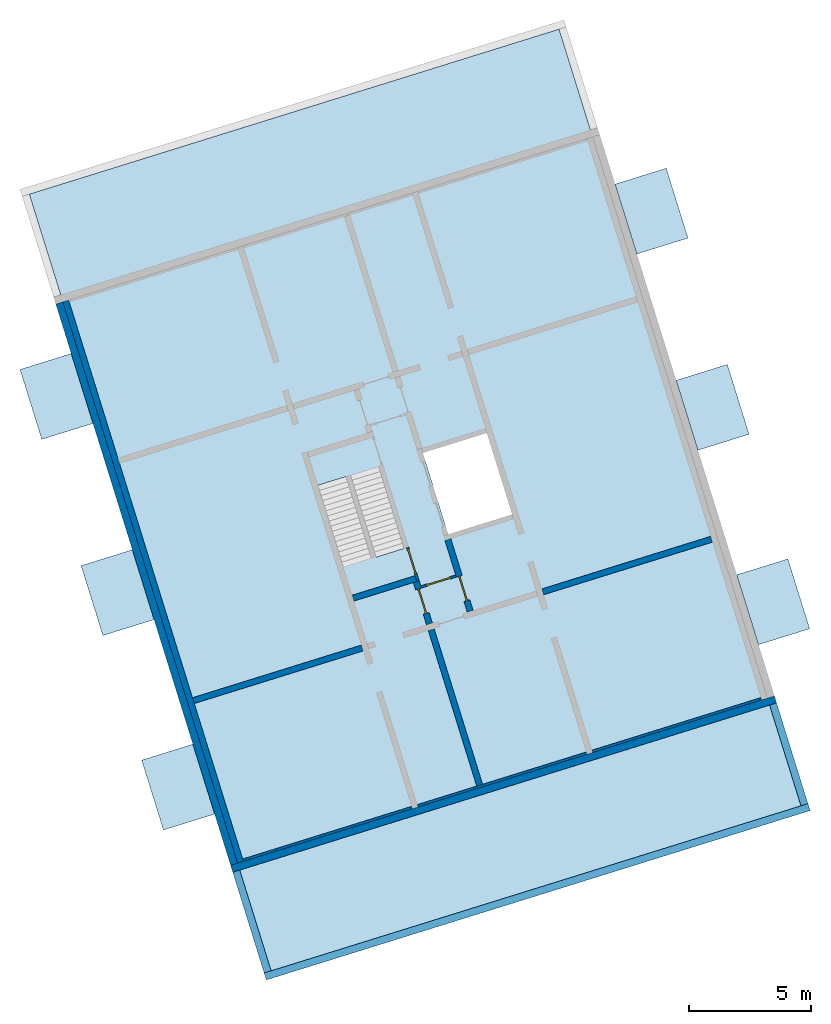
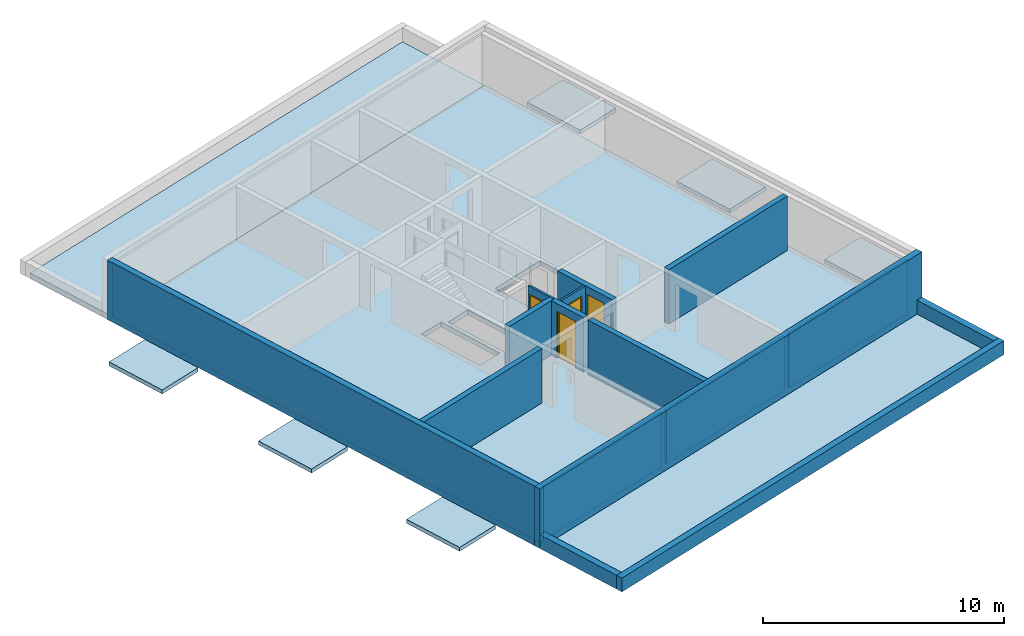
# One storey, part 1 of 4: 17 walls, 9 slabs, 4 doors, 6 openings.
"""IFC4 building model written with IfcOpenShell, lengths in metres."""

from ifc_helpers import new_model, entity, si_unit, converted_unit, direction, frame, origin, place, context, subcontext, project, spatial, indexed_curve, outline, extrude, polygons, source, transform, mapped, material, constituent, constituent_set, type_object, type_shapes, element, fill, save


model = new_model("IFC4")

# Units and contexts
model_context = context("Model", 3, precision=1e-05, world=origin(), true_north=direction((6.12323399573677e-17, 1.0)))
body_context = subcontext(model_context, "Body", "Model", "MODEL_VIEW")
ifc_project = project(units=[si_unit("LENGTHUNIT", "METRE"), si_unit("AREAUNIT", "SQUARE_METRE"), si_unit("VOLUMEUNIT", "CUBIC_METRE"), converted_unit("PLANEANGLEUNIT", "DEGREE", entity("IfcPlaneAngleMeasure", 0.0174532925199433), si_unit("PLANEANGLEUNIT", "RADIAN"), dimensions=[0, 0, 0, 0, 0, 0, 0])], contexts=[model_context])

# Site, building, storey
site_placement = place(None, frame((13.1347999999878, 11.9886000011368, 0.0), z_axis=(0.0, 0.0, 1.0), x_axis=(0.954770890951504, 0.297342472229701, 0.0)))
site = spatial("IfcSite", under=ifc_project, at=site_placement, Name="Schiehaven", CompositionType="ELEMENT")
building_placement = place(site_placement, origin())
building = spatial("IfcBuilding", under=site, at=building_placement, Name="VORM huis", CompositionType="ELEMENT")
storey_placement = place(building_placement, frame((0.0, 0.0, 6.9)))
storey = spatial("IfcBuildingStorey", under=building, at=storey_placement, Name="02 tweede verdieping", CompositionType="ELEMENT", Elevation=6.9)

# Slab, openings
ifc_material_1 = material(Name="beton_gewapend_ihw", Category="Miscellaneous")
slab_type_1 = type_object("IfcSlabType", Name="Floor:28_FL_skelet_vloer 250mm", PredefinedType="FLOOR", material=ifc_material_1)
slab_1_placement = place(storey_placement, origin())
slab_1 = element("IfcSlab", 1, at=slab_1_placement, inside=storey, type_object=slab_type_1, material=ifc_material_1, Name="Constructieve vloer", ObjectType="Vloer", PredefinedType="FLOOR", context=body_context, shape_type="SweptSolid", body=[
    extrude(outline(indexed_curve([(-12.0499999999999, -11.375), (12.0499999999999, -11.375), (12.0499999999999, 11.375), (-12.0499999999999, 11.375), (-12.0499999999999, -11.375)], self_intersect=False), holes=[indexed_curve([(1.75000000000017, 3.62500000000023), (1.75000000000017, 0.875000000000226), (-1.74999999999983, 0.875000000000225), (-1.74999999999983, 3.62500000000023), (1.75000000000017, 3.62500000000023)], self_intersect=False), indexed_curve([(-1.53999999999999, -2.22499999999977), (-1.53999999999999, -1.02499999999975), (1.76000000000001, -1.02499999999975), (1.76000000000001, -2.22499999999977), (-1.53999999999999, -2.22499999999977)], self_intersect=False), indexed_curve([(1.54000000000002, -3.62499999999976), (-1.75999999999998, -3.62499999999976), (-1.75999999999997, -2.42499999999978), (1.54000000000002, -2.42499999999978), (1.54000000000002, -3.62499999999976)], self_intersect=False)]), frame((68.7500000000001, 17.0499999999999, -0.249999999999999), z_axis=(0.0, 0.0, 1.0), x_axis=(0.0, -1.0, 0.0)), (0.0, 0.0, 1.0), 0.249999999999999),
])
opening_1_placement = place(slab_1_placement, origin())
element("IfcOpeningElement", 2, at=opening_1_placement, cuts=slab_1, Name="Constructieve vloer", PredefinedType="OPENING", context=body_context, shape_type="SweptSolid", body=[
    extrude(outline(indexed_curve([(-1.75, -1.37499999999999), (1.75, -1.37499999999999), (1.75, 1.37500000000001), (-1.75, 1.37500000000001), (-1.75, -1.37499999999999)], self_intersect=False)), frame((71.0, 17.0499999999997, -0.249999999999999), z_axis=(0.0, 0.0, 1.0), x_axis=(0.0, 1.0, 0.0)), (0.0, 0.0, 1.0), 0.249999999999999),
])
opening_2_placement = place(slab_1_placement, origin())
element("IfcOpeningElement", 3, at=opening_2_placement, cuts=slab_1, Name="Constructieve vloer", PredefinedType="OPENING", context=body_context, shape_type="SweptSolid", body=[
    extrude(outline(indexed_curve([(-1.65, -0.600000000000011), (1.65000000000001, -0.600000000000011), (1.65000000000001, 0.600000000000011), (-1.65, 0.600000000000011), (-1.65, -0.600000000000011)], self_intersect=False)), frame((67.1250000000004, 16.9399999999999, -0.249999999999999), z_axis=(0.0, 0.0, 1.0), x_axis=(0.0, -1.0, 0.0)), (0.0, 0.0, 1.0), 0.249999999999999),
])

# Slabs
ifc_material_2 = material(Name="beton_gewapend_prefab-element", Category="Miscellaneous")
slab_type_2 = type_object("IfcSlabType", Name="Floor:23_FL_skelet_balkon 200mm", PredefinedType="FLOOR", material=ifc_material_2)
slab_2_placement = place(storey_placement, origin())
element("IfcSlab", 4, at=slab_2_placement, inside=storey, type_object=slab_type_2, material=ifc_material_2, Name="Balkonvloer", ObjectType="Vloer", PredefinedType="FLOOR", context=body_context, shape_type="SweptSolid", body=[
    extrude(outline(indexed_curve([(-1.49999999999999, -1.1), (1.5, -1.1), (1.49999999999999, 1.1), (-1.5, 1.1), (-1.49999999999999, -1.1)], self_intersect=False)), frame((55.9750000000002, 25.475, 0.0), z_axis=(0.0, 0.0, -1.0), x_axis=(0.0, 1.0, 0.0)), (0.0, 0.0, 1.0), 0.2),
])
slab_3_placement = place(storey_placement, origin())
element("IfcSlab", 5, at=slab_3_placement, inside=storey, type_object=slab_type_2, material=ifc_material_2, Name="Balkonvloer", ObjectType="Vloer", PredefinedType="FLOOR", context=body_context, shape_type="SweptSolid", body=[
    extrude(outline(indexed_curve([(-1.50000000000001, -1.1), (1.50000000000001, -1.1), (1.50000000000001, 1.10000000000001), (-1.50000000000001, 1.1), (-1.50000000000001, -1.1)], self_intersect=False)), frame((55.9750000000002, 8.70000000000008, 0.0), z_axis=(0.0, 0.0, -1.0), x_axis=(0.0, 1.0, 0.0)), (0.0, 0.0, 1.0), 0.2),
])
slab_4_placement = place(storey_placement, origin())
element("IfcSlab", 6, at=slab_4_placement, inside=storey, type_object=slab_type_2, material=ifc_material_2, Name="Balkonvloer", ObjectType="Vloer", PredefinedType="FLOOR", context=body_context, shape_type="SweptSolid", body=[
    extrude(outline(indexed_curve([(-1.50000000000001, -1.1), (1.50000000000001, -1.1), (1.50000000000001, 1.1), (-1.5, 1.10000000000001), (-1.50000000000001, -1.1)], self_intersect=False)), frame((55.9750000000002, 17.0499999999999, 0.0), z_axis=(0.0, 0.0, -1.0), x_axis=(0.0, 1.0, 0.0)), (0.0, 0.0, 1.0), 0.2),
])
slab_5_placement = place(storey_placement, origin())
element("IfcSlab", 7, at=slab_5_placement, inside=storey, type_object=slab_type_2, material=ifc_material_2, Name="Balkonvloer", ObjectType="Vloer", PredefinedType="FLOOR", context=body_context, shape_type="SweptSolid", body=[
    extrude(outline(indexed_curve([(-1.50000000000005, -1.10000000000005), (1.50000000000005, -1.10000000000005), (1.50000000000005, 1.10000000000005), (-1.50000000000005, 1.10000000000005), (-1.50000000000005, -1.10000000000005)], self_intersect=False)), frame((81.5250000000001, 25.475, 0.0), z_axis=(0.0, 0.0, -1.0), x_axis=(0.0, 1.0, 0.0)), (0.0, 0.0, 1.0), 0.2),
])
slab_6_placement = place(storey_placement, origin())
element("IfcSlab", 8, at=slab_6_placement, inside=storey, type_object=slab_type_2, material=ifc_material_2, Name="Balkonvloer", ObjectType="Vloer", PredefinedType="FLOOR", context=body_context, shape_type="SweptSolid", body=[
    extrude(outline(indexed_curve([(-1.49999999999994, -1.09999999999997), (1.49999999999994, -1.09999999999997), (1.49999999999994, 1.09999999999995), (-1.49999999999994, 1.09999999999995), (-1.49999999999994, -1.09999999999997)], self_intersect=False)), frame((81.5250000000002, 8.70000000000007, 0.0), z_axis=(0.0, 0.0, -1.0), x_axis=(0.0, 1.0, 0.0)), (0.0, 0.0, 1.0), 0.2),
])
slab_7_placement = place(storey_placement, origin())
element("IfcSlab", 9, at=slab_7_placement, inside=storey, type_object=slab_type_2, material=ifc_material_2, Name="Balkonvloer", ObjectType="Vloer", PredefinedType="FLOOR", context=body_context, shape_type="SweptSolid", body=[
    extrude(outline(indexed_curve([(-1.49999999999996, -1.09999999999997), (1.49999999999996, -1.09999999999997), (1.49999999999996, 1.09999999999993), (-1.49999999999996, 1.09999999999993), (-1.49999999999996, -1.09999999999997)], self_intersect=False)), frame((81.5250000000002, 17.05, 0.0), z_axis=(0.0, 0.0, -1.0), x_axis=(0.0, 1.0, 0.0)), (0.0, 0.0, 1.0), 0.2),
])
slab_type_3 = type_object("IfcSlabType", Name="Floor:28_FL_skelet_dakterrasvloer 250mm", PredefinedType="ROOF", material=ifc_material_1)
slab_8_placement = place(storey_placement, origin())
element("IfcSlab", 10, at=slab_8_placement, inside=storey, type_object=slab_type_3, material=ifc_material_1, Name="Begaanbare dakvloer", ObjectType="Vloer", PredefinedType="ROOF", context=body_context, shape_type="SweptSolid", body=[
    extrude(outline(indexed_curve([(-2.31249999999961, -11.375), (2.31250000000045, -11.375), (2.31249999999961, 11.375), (-2.31250000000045, 11.375), (-2.31249999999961, -11.375)], self_intersect=False)), frame((68.7500000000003, 2.68749999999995, 0.0), z_axis=(0.0, 0.0, -1.0), x_axis=(0.0, 1.0, 0.0)), (0.0, 0.0, 1.0), 0.249999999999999),
])
slab_9_placement = place(storey_placement, origin())
element("IfcSlab", 11, at=slab_9_placement, inside=storey, type_object=slab_type_3, material=ifc_material_1, Name="Begaanbare dakvloer", ObjectType="Vloer", PredefinedType="ROOF", context=body_context, shape_type="SweptSolid", body=[
    extrude(outline(indexed_curve([(-2.31249999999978, -11.3750000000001), (2.31250000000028, -11.3750000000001), (2.31249999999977, 11.3750000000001), (-2.31250000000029, 11.3750000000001), (-2.31249999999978, -11.3750000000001)], self_intersect=False)), frame((68.7500000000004, 31.4124999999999, 0.0), z_axis=(0.0, 0.0, -1.0), x_axis=(0.0, 1.0, 0.0)), (0.0, 0.0, 1.0), 0.249999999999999),
])

# Walls
wall_type_1 = type_object("IfcWallType", Name="Basic Wall:28_WA_skelet_wand 250mm_gen", PredefinedType="STANDARD")
wall_1_placement = place(storey_placement, frame((57.5000000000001, 5.0, 0.0), z_axis=(0.0, 0.0, 1.0), x_axis=(0.0, 1.0, 0.0)))
element("IfcWall", 12, at=wall_1_placement, inside=storey, type_object=wall_type_1, material=ifc_material_1, Name="Constructieve wand", ObjectType="Wand", PredefinedType="NOTDEFINED", context=body_context, shape_type="SweptSolid", body=[
    extrude(outline(indexed_curve([(24.1, 0.124999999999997), (1.84706995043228e-16, 0.124999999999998), (-1.84706995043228e-16, -0.124999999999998), (24.1, -0.124999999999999), (24.1, 0.124999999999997)], self_intersect=False)), origin(), (0.0, 0.0, 1.0), 2.75),
])
ifc_material_3 = material(Name="ntb_ntb_ntb", Category="Miscellaneous")
wall_type_2 = type_object("IfcWallType", Name="Basic Wall:21_WA_gevel_binnenspouwwand 100mm_gen", PredefinedType="STANDARD")
wall_2_placement = place(storey_placement, frame((79.8750000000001, 5.04999999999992, 0.0), z_axis=(0.0, 0.0, 1.0), x_axis=(-1.0, 0.0, 0.0)))
element("IfcWall", 13, at=wall_2_placement, inside=storey, type_object=wall_type_2, material=ifc_material_3, Name="Binnenspouwblad", ObjectType="Wand", PredefinedType="NOTDEFINED", context=body_context, shape_type="SweptSolid", body=[
    extrude(outline(indexed_curve([(7.24999999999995, 0.0500000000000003), (-5.72474684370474e-18, 0.0500000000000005), (5.72474684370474e-18, -0.0500000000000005), (7.24999999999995, -0.0500000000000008), (7.24999999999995, 0.0500000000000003)], self_intersect=False)), origin(), (0.0, 0.0, 1.0), 2.75),
])
wall_3_placement = place(storey_placement, frame((65.1250000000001, 5.0499999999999, 0.0)))
element("IfcWall", 14, at=wall_3_placement, inside=storey, type_object=wall_type_2, material=ifc_material_3, Name="Binnenspouwblad", ObjectType="Wand", PredefinedType="NOTDEFINED", context=body_context, shape_type="SweptSolid", body=[
    extrude(outline(indexed_curve([(7.24999999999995, 0.0500000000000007), (1.48468503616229e-16, 0.0500000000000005), (-1.48468503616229e-16, -0.0500000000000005), (7.24999999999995, -0.0500000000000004), (7.24999999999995, 0.0500000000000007)], self_intersect=False)), origin(), (0.0, 0.0, 1.0), 2.75),
])
wall_4_placement = place(storey_placement, frame((64.875, 5.0499999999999, 0.0), z_axis=(0.0, 0.0, 1.0), x_axis=(-1.0, 0.0, 0.0)))
element("IfcWall", 15, at=wall_4_placement, inside=storey, type_object=wall_type_2, material=ifc_material_3, Name="Binnenspouwblad", ObjectType="Wand", PredefinedType="NOTDEFINED", context=body_context, shape_type="SweptSolid", body=[
    extrude(outline(indexed_curve([(7.24999999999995, 0.0500000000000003), (-5.72474684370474e-18, 0.0500000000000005), (5.72474684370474e-18, -0.0500000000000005), (7.24999999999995, -0.0500000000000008), (7.24999999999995, 0.0500000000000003)], self_intersect=False)), origin(), (0.0, 0.0, 1.0), 2.75),
])
wall_type_3 = type_object("IfcWallType", Name="Basic Wall: 300mm_gen", PredefinedType="STANDARD")
wall_5_placement = place(storey_placement, frame((57.075, 4.84999999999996, 0.0)))
element("IfcWall", 16, at=wall_5_placement, inside=storey, type_object=wall_type_3, material=ifc_material_3, Name="Gevelwand", ObjectType="Wand", PredefinedType="NOTDEFINED", context=body_context, shape_type="SweptSolid", body=[
    extrude(outline(indexed_curve([(23.35, 0.150000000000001), (-2.29983128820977e-16, 0.150000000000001), (2.29983128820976e-16, -0.15), (23.35, -0.15), (23.35, 0.150000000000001)], self_intersect=False)), origin(), (0.0, 0.0, 1.0), 3.0),
])
wall_6_placement = place(storey_placement, frame((57.2250000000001, 29.0999999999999, 0.0), z_axis=(0.0, 0.0, 1.0), x_axis=(0.0, -1.0, 0.0)))
element("IfcWall", 17, at=wall_6_placement, inside=storey, type_object=wall_type_3, material=ifc_material_3, Name="Gevelwand", ObjectType="Wand", PredefinedType="NOTDEFINED", context=body_context, shape_type="SweptSolid", body=[
    extrude(outline(indexed_curve([(24.1, 0.149999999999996), (-2.43297068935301e-16, 0.150000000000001), (2.43297068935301e-16, -0.150000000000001), (24.1, -0.150000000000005), (24.1, 0.149999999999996)], self_intersect=False)), origin(), (0.0, 0.0, 1.0), 3.0),
])
wall_7_placement = place(storey_placement, frame((57.2250000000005, 4.7000000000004, 0.0), z_axis=(0.0, 0.0, 1.0), x_axis=(0.0, -1.0, 0.0)))
element("IfcWall", 18, at=wall_7_placement, inside=storey, type_object=wall_type_3, material=ifc_material_3, Name="Gevelwand", ObjectType="Wand", PredefinedType="NOTDEFINED", context=body_context, shape_type="SweptSolid", body=[
    extrude(outline(indexed_curve([(4.32500000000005, 0.15), (-1.7016100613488e-16, 0.150000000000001), (1.7016100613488e-16, -0.150000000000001), (4.32500000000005, -0.150000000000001), (4.32500000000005, 0.15)], self_intersect=False)), origin(), (0.0, 0.0, 1.0), 0.700000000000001),
])
wall_8_placement = place(storey_placement, frame((57.0750000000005, 0.225000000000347, 0.0)))
element("IfcWall", 19, at=wall_8_placement, inside=storey, type_object=wall_type_3, material=ifc_material_3, Name="Gevelwand", ObjectType="Wand", PredefinedType="NOTDEFINED", context=body_context, shape_type="SweptSolid", body=[
    extrude(outline(indexed_curve([(23.3499999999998, 0.15), (6.63985353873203e-16, 0.15), (-6.63985353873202e-16, -0.15), (23.3499999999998, -0.15), (23.3499999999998, 0.15)], self_intersect=False)), origin(), (0.0, 0.0, 1.0), 0.700000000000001),
])
wall_9_placement = place(storey_placement, frame((80.2750000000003, 0.375000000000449, 0.0), z_axis=(0.0, 0.0, 1.0), x_axis=(0.0, 1.0, 0.0)))
element("IfcWall", 20, at=wall_9_placement, inside=storey, type_object=wall_type_3, material=ifc_material_3, Name="Gevelwand", ObjectType="Wand", PredefinedType="NOTDEFINED", context=body_context, shape_type="SweptSolid", body=[
    extrude(outline(indexed_curve([(4.32499999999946, 0.150000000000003), (-9.06894673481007e-17, 0.150000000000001), (9.06894673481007e-17, -0.150000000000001), (4.32499999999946, -0.149999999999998), (4.32499999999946, 0.150000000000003)], self_intersect=False)), origin(), (0.0, 0.0, 1.0), 0.700000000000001),
])
wall_type_4 = type_object("IfcWallType", Name="Basic Wall:22_WA_afbouw_binnenwand 250mm_gen", PredefinedType="STANDARD")
wall_10_placement = place(storey_placement, frame((64.8750000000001, 11.8999999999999, 0.0), z_axis=(0.0, 0.0, 1.0), x_axis=(-1.0, 0.0, 0.0)))
element("IfcWall", 21, at=wall_10_placement, inside=storey, type_object=wall_type_4, material=ifc_material_3, Name="Binnenwand", ObjectType="Wand", PredefinedType="NOTDEFINED", context=body_context, shape_type="SweptSolid", body=[
    extrude(outline(indexed_curve([(7.24999999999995, 0.125000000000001), (-2.8436708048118e-16, 0.125), (2.8436708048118e-16, -0.125), (7.24999999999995, -0.124999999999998), (7.24999999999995, 0.125000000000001)], self_intersect=False)), origin(), (0.0, 0.0, 1.0), 2.75),
])
wall_11_placement = place(storey_placement, frame((67.8, 11.7749999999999, 0.0), z_axis=(0.0, 0.0, 1.0), x_axis=(0.0, -1.0, 0.0)))
element("IfcWall", 22, at=wall_11_placement, inside=storey, type_object=wall_type_4, material=ifc_material_3, Name="Binnenwand", ObjectType="Wand", PredefinedType="NOTDEFINED", context=body_context, shape_type="SweptSolid", body=[
    extrude(outline(indexed_curve([(6.67500000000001, 0.124999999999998), (-1.7762946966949e-16, 0.124999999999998), (1.7762946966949e-16, -0.124999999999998), (6.67500000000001, -0.124999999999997), (6.67500000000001, 0.124999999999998)], self_intersect=False)), origin(), (0.0, 0.0, 1.0), 2.75),
])
wall_12_placement = place(storey_placement, frame((72.6250000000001, 11.8999999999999, 0.0)))
element("IfcWall", 23, at=wall_12_placement, inside=storey, type_object=wall_type_4, material=ifc_material_3, Name="Binnenwand", ObjectType="Wand", PredefinedType="NOTDEFINED", context=body_context, shape_type="SweptSolid", body=[
    extrude(outline(indexed_curve([(7.24999999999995, 0.125000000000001), (-2.79648850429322e-16, 0.125), (2.79648850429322e-16, -0.125), (7.24999999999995, -0.124999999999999), (7.24999999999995, 0.125000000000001)], self_intersect=False)), origin(), (0.0, 0.0, 1.0), 2.75),
])

# Wall, opening, door
wall_13_placement = place(storey_placement, frame((67.8000000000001, 13.8399999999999, 0.0), z_axis=(0.0, 0.0, 1.0), x_axis=(0.0, -1.0, 0.0)))
wall_13 = element("IfcWall", 24, at=wall_13_placement, inside=storey, type_object=wall_type_4, material=ifc_material_3, Name="Binnenwand", ObjectType="Wand", PredefinedType="NOTDEFINED", context=body_context, shape_type="Tessellation", body=[
    polygons([(0.0, -0.125000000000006, 1.08286712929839e-15), (0.315000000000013, -0.125000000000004, 1.08286712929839e-15), (0.315000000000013, -0.125000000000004, 2.34999999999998), (1.36500000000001, -0.125000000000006, 2.34999999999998), (1.36500000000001, -0.125000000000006, 1.08286712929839e-15), (1.81499999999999, -0.125000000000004, 1.08286712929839e-15), (1.81499999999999, -0.125000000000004, 2.75), (0.0, -0.125000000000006, 2.75), (0.315000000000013, 0.124999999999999, 2.34999999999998), (0.315000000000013, 0.124999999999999, 1.08286712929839e-15), (0.215000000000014, 0.124999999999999, 0.0), (-2.16573425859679e-15, 0.124999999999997, 1.08286712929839e-15), (-2.16573425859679e-15, 0.124999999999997, 2.75), (0.215000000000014, 0.124999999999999, 2.75), (0.315000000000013, 0.124999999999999, 2.75), (1.81499999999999, 0.125, 2.75), (1.81499999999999, 0.125, 1.08286712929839e-15), (1.36500000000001, 0.124999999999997, 1.08286712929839e-15), (1.36500000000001, 0.124999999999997, 2.34999999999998), (0.0, 0.0250000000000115, 0.0), (0.0, 0.0250000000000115, 2.75)], [[[1, 2, 3, 4, 5, 6, 7, 8]], [[9, 10, 11, 12, 13, 14, 15, 16, 17, 18, 19]], [[12, 11, 10, 2, 1, 20]], [[7, 6, 17, 16]], [[8, 7, 16, 15, 14, 13, 21]], [[5, 4, 19, 18]], [[3, 2, 10, 9]], [[4, 3, 9, 19]], [[1, 8, 21, 13, 12, 20]], [[18, 17, 6, 5]]], closed=True),
])
opening_3_placement = place(wall_13_placement, frame((0.315000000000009, -0.125000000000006, 0.0)))
opening_3 = element("IfcOpeningElement", 25, at=opening_3_placement, cuts=wall_13, Name="Woningtoegangsdeur", PredefinedType="OPENING", context=body_context, shape_type="SweptSolid", body=[
    extrude(outline(indexed_curve([(2.34999999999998, 1.05), (0.0, 1.05), (0.0, 1.35358391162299e-15), (2.34999999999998, 1.35358391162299e-15), (2.34999999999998, 1.05)], self_intersect=False)), frame((0.0, 0.0, 0.0), z_axis=(0.0, 1.0, 0.0), x_axis=(0.0, 0.0, 1.0)), (0.0, 0.0, 1.0), 0.25),
])
ifc_material_4 = material(Name="PD_a_binnenwandopeningen", Category="Miscellaneous")
ifc_constituent_1 = constituent(ifc_material_4, Name="PD_a_binnenwandopeningen", Category="Miscellaneous")
ifc_material_5 = material(Name="metaal_aluminium_ntb", Category="Miscellaneous")
ifc_constituent_2 = constituent(ifc_material_5, Name="metaal_aluminium_ntb", Category="Miscellaneous")
ifc_constituent_set_1 = constituent_set(constituents=[ifc_constituent_1, ifc_constituent_2])
ifc_constituent_3 = constituent(ifc_material_4, Name="PD_a_binnenwandopeningen", Category="Miscellaneous")
ifc_constituent_4 = constituent(ifc_material_5, Name="Panel", Category="Miscellaneous")
ifc_constituent_set_2 = constituent_set(constituents=[ifc_constituent_3, ifc_constituent_4])
door_type_1 = type_object("IfcDoorType", Name="32_DO_binnendeur enkel:woningtoegangsdeur", OperationType="REVOLVING", PredefinedType="DOOR", material=ifc_constituent_set_2)
shared_shape_1 = source(origin(), body_context, "Body", "SweptSolid", [
    extrude(outline(indexed_curve([(-1.16249999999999, -0.525000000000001), (1.18749999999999, -0.525), (1.18749999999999, 0.525000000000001), (-1.16249999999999, 0.525000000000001), (-1.16249999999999, 0.475), (1.13749999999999, 0.475), (1.13749999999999, -0.475), (-1.16249999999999, -0.475), (-1.16249999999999, -0.525000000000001)], self_intersect=False)), frame((0.525000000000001, 0.0749999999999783, 1.16249999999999), z_axis=(0.0, 1.0, 0.0), x_axis=(0.0, 0.0, 1.0)), (0.0, 0.0, 1.0), 0.1),
    extrude(outline(indexed_curve([(-0.025, -0.475), (0.025, -0.475), (0.025, 0.475), (-0.025, 0.475), (-0.025, -0.475)], self_intersect=False)), frame((0.525000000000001, 0.12499999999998, 0.0), z_axis=(0.0, 0.0, 1.0), x_axis=(0.0, 1.0, 0.0)), (0.0, 0.0, 1.0), 2.29999999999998),
])
type_shapes(door_type_1, [shared_shape_1])
door_1_placement = place(opening_3_placement, origin())
door_1 = element("IfcDoor", 26, at=door_1_placement, inside=storey, type_object=door_type_1, material=ifc_constituent_set_1, Name="Woningtoegangsdeur", ObjectType="Deur", OperationType="REVOLVING", OverallHeight=2.34999999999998, OverallWidth=1.05, PredefinedType="DOOR", context=body_context, shape_type="MappedRepresentation", body=[
    mapped(shared_shape_1, transform((0.0, 0.0, 0.0), scale=1.0)),
])
fill(opening_3, door_1)

wall_14_placement = place(storey_placement, frame((69.5500000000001, 15.0999999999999, 0.0), z_axis=(0.0, 0.0, 1.0), x_axis=(0.0, -1.0, 0.0)))
wall_14 = element("IfcWall", 27, at=wall_14_placement, inside=storey, type_object=wall_type_4, material=ifc_material_3, Name="Binnenwand", ObjectType="Wand", PredefinedType="NOTDEFINED", context=body_context, shape_type="Tessellation", body=[
    polygons([(2.62500000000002, -0.125000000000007, 2.34999999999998), (2.62500000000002, -0.125000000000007, 1.08286712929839e-15), (3.07499999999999, -0.125000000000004, 1.08286712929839e-15), (3.07499999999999, -0.125000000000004, 2.75), (1.575, -0.125000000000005, 2.75), (1.475, -0.125000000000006, 2.75), (0.0, -0.125000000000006, 2.75), (0.0, -0.125000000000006, 1.08286712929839e-15), (1.475, -0.125000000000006, 0.0), (1.57500000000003, -0.125000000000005, 1.08286712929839e-15), (1.57500000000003, -0.125000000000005, 2.34999999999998), (3.075, 0.124999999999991, 1.08286712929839e-15), (2.62500000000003, 0.124999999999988, 1.08286712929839e-15), (2.62500000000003, 0.124999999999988, 2.34999999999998), (1.57500000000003, 0.124999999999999, 2.34999999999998), (1.57500000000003, 0.124999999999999, 1.08286712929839e-15), (2.16573425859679e-15, 0.124999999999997, 1.08286712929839e-15), (2.16573425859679e-15, 0.124999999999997, 2.75), (3.075, 0.124999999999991, 2.75)], [[[1, 2, 3, 4, 5, 6, 7, 8, 9, 10, 11]], [[12, 13, 14, 15, 16, 17, 18, 19]], [[10, 9, 8, 17, 16]], [[4, 3, 12, 19]], [[7, 6, 5, 4, 19, 18]], [[8, 7, 18, 17]], [[16, 15, 11, 10]], [[14, 13, 2, 1]], [[15, 14, 1, 11]], [[3, 2, 13, 12]]], closed=True),
])
opening_4_placement = place(wall_14_placement, frame((2.62500000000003, 0.124999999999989, 0.0)))
opening_4 = element("IfcOpeningElement", 28, at=opening_4_placement, cuts=wall_14, Name="Woningtoegangsdeur", PredefinedType="OPENING", context=body_context, shape_type="SweptSolid", body=[
    extrude(outline(indexed_curve([(2.34999999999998, 1.05), (0.0, 1.05), (0.0, 1.08286712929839e-15), (2.34999999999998, 1.08286712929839e-15), (2.34999999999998, 1.05)], self_intersect=False)), frame((0.0, 0.0, 0.0), z_axis=(0.0, -1.0, 0.0), x_axis=(0.0, 0.0, 1.0)), (0.0, 0.0, 1.0), 0.25),
])
ifc_constituent_5 = constituent(ifc_material_4, Name="PD_a_binnenwandopeningen", Category="Miscellaneous")
ifc_constituent_6 = constituent(ifc_material_5, Name="metaal_aluminium_ntb", Category="Miscellaneous")
ifc_constituent_set_3 = constituent_set(constituents=[ifc_constituent_5, ifc_constituent_6])
door_2_placement = place(opening_4_placement, frame((0.0, 0.0, 0.0), z_axis=(0.0, 0.0, 1.0), x_axis=(-1.0, 0.0, 0.0)))
door_2 = element("IfcDoor", 29, at=door_2_placement, inside=storey, type_object=door_type_1, material=ifc_constituent_set_3, Name="Woningtoegangsdeur", ObjectType="Deur", OperationType="REVOLVING", OverallHeight=2.34999999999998, OverallWidth=1.05, PredefinedType="DOOR", context=body_context, shape_type="MappedRepresentation", body=[
    mapped(shared_shape_1, transform((0.0, 0.0, 0.0), scale=1.0)),
])
fill(opening_4, door_2)

# Wall
wall_15_placement = place(storey_placement, frame((65.1250000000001, 13.9649999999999, 0.0)))
element("IfcWall", 30, at=wall_15_placement, inside=storey, type_object=wall_type_4, material=ifc_material_3, Name="Binnenwand", ObjectType="Wand", PredefinedType="NOTDEFINED", context=body_context, shape_type="SweptSolid", body=[
    extrude(outline(indexed_curve([(2.70000000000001, 0.125), (-1.06625112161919e-16, 0.125), (1.06625112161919e-16, -0.125), (2.70000000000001, -0.125), (2.70000000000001, 0.125)], self_intersect=False)), origin(), (0.0, 0.0, 1.0), 2.75),
])

# Wall, opening, door
wall_type_5 = type_object("IfcWallType", Name="Basic Wall:22_WA_afbouw_binnenwand 100mm_gen", PredefinedType="STANDARD")
wall_16_placement = place(storey_placement, frame((67.8750000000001, 13.8399999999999, 0.0), z_axis=(0.0, 0.0, 1.0), x_axis=(0.0, 1.0, 0.0)))
wall_16 = element("IfcWall", 31, at=wall_16_placement, inside=storey, type_object=wall_type_5, material=ifc_material_3, Name="Binnenwand", ObjectType="Wand", PredefinedType="NOTDEFINED", context=body_context, shape_type="Tessellation", body=[
    polygons([(1.44999999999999, -0.050000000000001, 1.08286712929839e-15), (1.44999999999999, -0.050000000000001, 2.75), (0.0, -0.0499999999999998, 2.75), (0.0, -0.0499999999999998, 1.08286712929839e-15), (0.324999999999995, -0.0500000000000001, 1.08286712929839e-15), (0.324999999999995, -0.0500000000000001, 2.34999999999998), (1.375, -0.0500000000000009, 2.34999999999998), (1.375, -0.0500000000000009, 1.08286712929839e-15), (1.44999999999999, 0.0499999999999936, 2.75), (1.44999999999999, 0.0499999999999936, 1.08286712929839e-15), (1.375, 0.0499999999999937, 1.08286712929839e-15), (1.375, 0.0499999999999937, 2.34999999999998), (0.324999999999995, 0.0499999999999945, 2.34999999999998), (0.324999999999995, 0.0499999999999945, 1.08286712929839e-15), (0.249999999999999, 0.0499999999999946, 0.0), (0.0, 0.0499999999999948, 1.08286712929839e-15), (0.0, 0.0499999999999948, 2.75), (0.249999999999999, 0.0499999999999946, 2.75)], [[[1, 2, 3, 4, 5, 6, 7, 8]], [[9, 10, 11, 12, 13, 14, 15, 16, 17, 18]], [[4, 16, 15, 14, 5]], [[2, 1, 10, 9]], [[3, 2, 9, 18, 17]], [[13, 6, 5, 14]], [[7, 12, 11, 8]], [[6, 13, 12, 7]], [[4, 3, 17, 16]], [[10, 1, 8, 11]]], closed=True),
])
opening_5_placement = place(wall_16_placement, frame((0.324999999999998, -0.0500000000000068, 0.0)))
opening_5 = element("IfcOpeningElement", 32, at=opening_5_placement, cuts=wall_16, Name="Vluchtdeur", PredefinedType="OPENING", context=body_context, shape_type="SweptSolid", body=[
    extrude(outline(indexed_curve([(2.34999999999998, 1.35358391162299e-15), (2.34999999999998, 1.05), (0.0, 1.05), (0.0, 1.35358391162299e-15), (2.34999999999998, 1.35358391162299e-15)], self_intersect=False)), frame((0.0, 0.0, 0.0), z_axis=(0.0, 1.0, 0.0), x_axis=(0.0, 0.0, 1.0)), (0.0, 0.0, 1.0), 0.1),
])
ifc_constituent_7 = constituent(ifc_material_4, Name="PD_a_binnenwandopeningen", Category="Miscellaneous")
ifc_constituent_8 = constituent(ifc_material_5, Name="metaal_aluminium_ntb", Category="Miscellaneous")
ifc_constituent_set_4 = constituent_set(constituents=[ifc_constituent_7, ifc_constituent_8])
ifc_constituent_9 = constituent(ifc_material_4, Name="PD_a_binnenwandopeningen", Category="Miscellaneous")
ifc_constituent_10 = constituent(ifc_material_5, Name="Panel", Category="Miscellaneous")
ifc_constituent_set_5 = constituent_set(constituents=[ifc_constituent_9, ifc_constituent_10])
door_type_2 = type_object("IfcDoorType", Name="32_DO_binnendeur enkel:binnendeur zelfsluitend 30min", OperationType="NOTDEFINED", PredefinedType="DOOR", material=ifc_constituent_set_5)
shared_shape_2 = source(origin(), body_context, "Body", "SweptSolid", [
    extrude(outline(indexed_curve([(0.475, -1.16249999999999), (0.525, -1.16249999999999), (0.525, 1.18749999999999), (-0.525, 1.18749999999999), (-0.525, -1.16249999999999), (-0.475, -1.16249999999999), (-0.475, 1.13749999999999), (0.475, 1.13749999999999), (0.475, -1.16249999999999)], self_intersect=False)), frame((0.525000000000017, 0.100000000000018, 1.16249999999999), z_axis=(0.0, -1.0, 0.0), x_axis=(1.0, 0.0, 0.0)), (0.0, 0.0, 1.0), 0.1),
    extrude(outline(indexed_curve([(-0.475, -0.025), (0.475, -0.025), (0.475, 0.025), (-0.475, 0.025), (-0.475, -0.025)], self_intersect=False)), frame((0.525000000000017, 0.0499999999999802, 0.0)), (0.0, 0.0, 1.0), 2.29999999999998),
])
type_shapes(door_type_2, [shared_shape_2])
door_3_placement = place(opening_5_placement, origin())
door_3 = element("IfcDoor", 33, at=door_3_placement, inside=storey, type_object=door_type_2, material=ifc_constituent_set_4, Name="Vluchtdeur", ObjectType="Deur", OperationType="NOTDEFINED", OverallHeight=2.34999999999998, OverallWidth=1.05, PredefinedType="DOOR", context=body_context, shape_type="MappedRepresentation", body=[
    mapped(shared_shape_2, transform((0.0, 0.0, 0.0), scale=1.0)),
])
fill(opening_5, door_3)

wall_17_placement = place(storey_placement, frame((67.9250000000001, 13.5749999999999, 0.0)))
wall_17 = element("IfcWall", 34, at=wall_17_placement, inside=storey, type_object=wall_type_5, material=ifc_material_3, Name="Binnenwand", ObjectType="Wand", PredefinedType="NOTDEFINED", context=body_context, shape_type="Tessellation", body=[
    polygons([(1.5, -0.0499999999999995, 2.75), (-1.73931956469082e-15, -0.0499999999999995, 2.75), (-1.73931956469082e-15, -0.0499999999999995, 2.34999999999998), (-1.73931956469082e-15, -0.0499999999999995, 1.08286712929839e-15), (0.224999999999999, -0.0499999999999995, 1.08286712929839e-15), (0.224999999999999, -0.0499999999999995, 2.34999999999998), (1.275, -0.0499999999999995, 2.34999999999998), (1.275, -0.0499999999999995, 1.08286712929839e-15), (1.5, -0.0499999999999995, 1.08286712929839e-15), (1.5, -0.0499999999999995, 2.34999999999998), (-1.30382056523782e-15, 0.0499999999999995, 2.75), (1.5, 0.0500000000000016, 2.75), (1.5, 0.0500000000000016, 1.08286712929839e-15), (1.275, 0.0499999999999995, 1.08286712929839e-15), (1.275, 0.0499999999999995, 2.34999999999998), (0.225, 0.0499999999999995, 2.34999999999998), (0.225, 0.0499999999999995, 1.08286712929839e-15), (-1.30382056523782e-15, 0.0499999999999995, 1.08286712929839e-15)], [[[1, 2, 3, 4, 5, 6, 7, 8, 9, 10]], [[11, 12, 13, 14, 15, 16, 17, 18]], [[4, 18, 17, 5]], [[2, 1, 12, 11]], [[16, 6, 5, 17]], [[6, 16, 15, 7]], [[7, 15, 14, 8]], [[4, 3, 2, 11, 18]], [[1, 10, 9, 13, 12]], [[13, 9, 8, 14]]], closed=True),
])
opening_6_placement = place(wall_17_placement, frame((0.225000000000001, -0.0499999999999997, 0.0)))
opening_6 = element("IfcOpeningElement", 35, at=opening_6_placement, cuts=wall_17, Name="Vluchtdeur", PredefinedType="OPENING", context=body_context, shape_type="SweptSolid", body=[
    extrude(outline(indexed_curve([(2.34999999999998, 1.05), (0.0, 1.05), (0.0, 1.06844054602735e-30), (2.34999999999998, 1.06844054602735e-30), (2.34999999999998, 1.05)], self_intersect=False)), frame((0.0, 0.0, 0.0), z_axis=(0.0, 1.0, 0.0), x_axis=(0.0, 0.0, 1.0)), (0.0, 0.0, 1.0), 0.1),
])
ifc_constituent_11 = constituent(ifc_material_4, Name="PD_a_binnenwandopeningen", Category="Miscellaneous")
ifc_constituent_12 = constituent(ifc_material_5, Name="metaal_aluminium_ntb", Category="Miscellaneous")
ifc_constituent_set_6 = constituent_set(constituents=[ifc_constituent_11, ifc_constituent_12])
ifc_constituent_13 = constituent(ifc_material_4, Name="PD_a_binnenwandopeningen", Category="Miscellaneous")
ifc_constituent_14 = constituent(ifc_material_5, Name="Panel", Category="Miscellaneous")
ifc_constituent_set_7 = constituent_set(constituents=[ifc_constituent_13, ifc_constituent_14])
door_type_3 = type_object("IfcDoorType", Name="32_DO_binnendeur enkel:binnendeur zelfsluitend 30min", OperationType="NOTDEFINED", PredefinedType="DOOR", material=ifc_constituent_set_7)
shared_shape_3 = source(origin(), body_context, "Body", "SweptSolid", [
    extrude(outline(indexed_curve([(-1.16249999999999, -0.525000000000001), (1.18749999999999, -0.525), (1.18749999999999, 0.525), (-1.16249999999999, 0.525), (-1.16249999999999, 0.475), (1.13749999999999, 0.475), (1.13749999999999, -0.475), (-1.16249999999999, -0.475), (-1.16249999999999, -0.525000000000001)], self_intersect=False)), frame((0.525000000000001, 0.0, 1.16249999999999), z_axis=(0.0, 1.0, 0.0), x_axis=(0.0, 0.0, 1.0)), (0.0, 0.0, 1.0), 0.1),
    extrude(outline(indexed_curve([(-0.025, -0.475), (0.025, -0.475), (0.025, 0.475), (-0.025, 0.475), (-0.025, -0.475)], self_intersect=False)), frame((0.525000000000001, 0.0499999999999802, 0.0), z_axis=(0.0, 0.0, 1.0), x_axis=(0.0, 1.0, 0.0)), (0.0, 0.0, 1.0), 2.29999999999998),
])
type_shapes(door_type_3, [shared_shape_3])
door_4_placement = place(opening_6_placement, origin())
door_4 = element("IfcDoor", 36, at=door_4_placement, inside=storey, type_object=door_type_3, material=ifc_constituent_set_6, Name="Vluchtdeur", ObjectType="Deur", OperationType="NOTDEFINED", OverallHeight=2.34999999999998, OverallWidth=1.05, PredefinedType="DOOR", context=body_context, shape_type="MappedRepresentation", body=[
    mapped(shared_shape_3, transform((0.0, 0.0, 0.0), scale=1.0)),
])
fill(opening_6, door_4)

save(model, "model.ifc")
